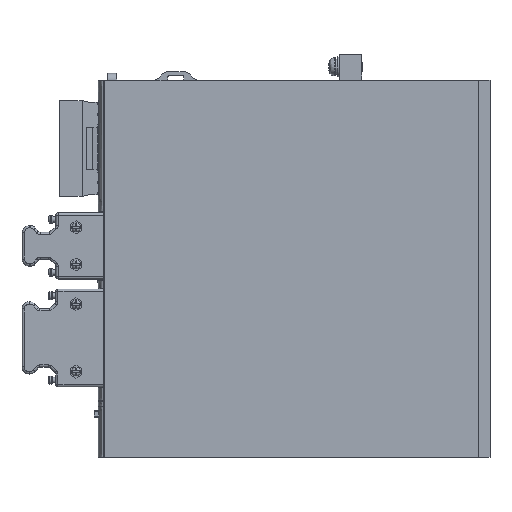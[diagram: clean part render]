
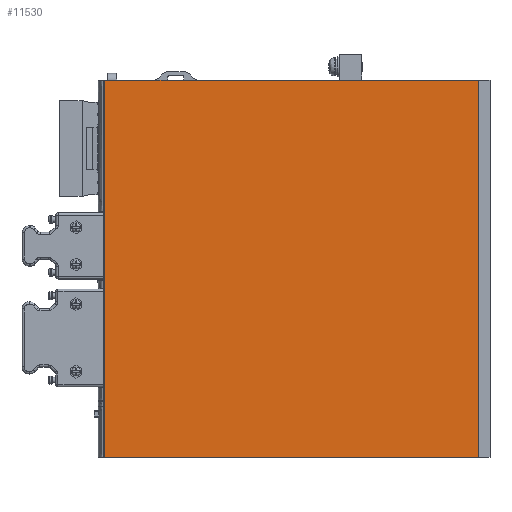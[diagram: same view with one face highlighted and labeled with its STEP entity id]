
A CAD part, left-side view. The second image highlights one B-rep face of the part: STEP entity #11530.
In plain terms, the highlighted planar face has unit normal (-1, 0, 0).
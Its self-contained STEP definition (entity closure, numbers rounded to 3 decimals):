
#1491=DIRECTION('',(0.,0.,1.));
#1492=VECTOR('',#1491,166.5);
#1493=CARTESIAN_POINT('',(-23.,-84.,5.));
#1494=LINE('',#1493,#1492);
#2647=DIRECTION('',(0.,-1.,0.));
#2648=VECTOR('',#2647,168.);
#2649=CARTESIAN_POINT('',(-23.,84.,5.));
#2650=LINE('',#2649,#2648);
#2651=DIRECTION('',(0.,0.,1.));
#2652=VECTOR('',#2651,166.5);
#2653=CARTESIAN_POINT('',(-23.,84.,5.));
#2654=LINE('',#2653,#2652);
#2655=DIRECTION('',(0.,-1.,0.));
#2656=VECTOR('',#2655,168.);
#2657=CARTESIAN_POINT('',(-23.,84.,171.5));
#2658=LINE('',#2657,#2656);
#6852=CARTESIAN_POINT('',(-23.,84.,171.5));
#6853=CARTESIAN_POINT('',(-23.,-84.,171.5));
#6854=VERTEX_POINT('',#6852);
#6855=VERTEX_POINT('',#6853);
#8220=CARTESIAN_POINT('',(-23.,84.,5.));
#8221=CARTESIAN_POINT('',(-23.,-84.,5.));
#8222=VERTEX_POINT('',#8220);
#8223=VERTEX_POINT('',#8221);
#11518=CARTESIAN_POINT('',(-23.,84.,0.));
#11519=DIRECTION('',(-1.,0.,0.));
#11520=DIRECTION('',(0.,-1.,0.));
#11521=AXIS2_PLACEMENT_3D('',#11518,#11519,#11520);
#11522=PLANE('',#11521);
#11523=ORIENTED_EDGE('',*,*,#11504,.F.);
#11524=ORIENTED_EDGE('',*,*,#10691,.T.);
#11526=ORIENTED_EDGE('',*,*,#11525,.T.);
#11527=ORIENTED_EDGE('',*,*,#9962,.F.);
#11528=EDGE_LOOP('',(#11523,#11524,#11526,#11527));
#11529=FACE_OUTER_BOUND('',#11528,.F.);
#11530=ADVANCED_FACE('',(#11529),#11522,.T.);
#9962=EDGE_CURVE('',#8223,#6855,#1494,.T.);
#10691=EDGE_CURVE('',#8222,#6854,#2654,.T.);
#11504=EDGE_CURVE('',#8222,#8223,#2650,.T.);
#11525=EDGE_CURVE('',#6854,#6855,#2658,.T.);
